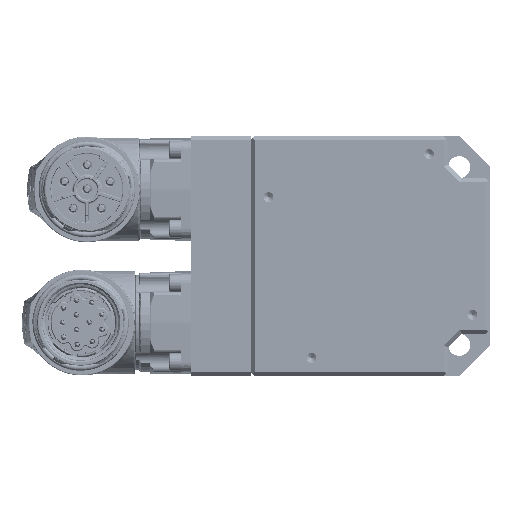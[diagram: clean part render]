
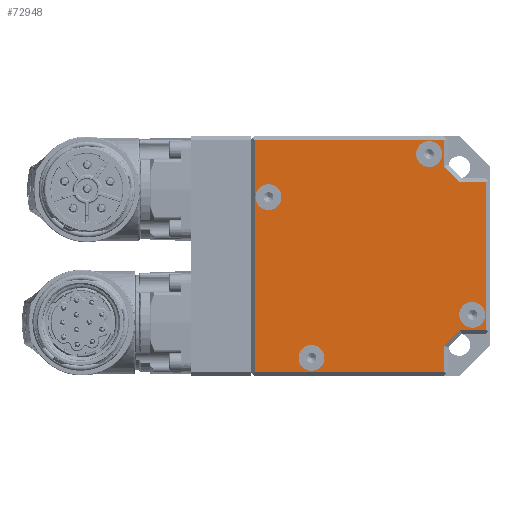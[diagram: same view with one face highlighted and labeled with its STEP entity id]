
A CAD part, left-side view. The second image highlights one B-rep face of the part: STEP entity #72948.
In plain terms, the highlighted planar face has unit normal (-1, 0, 0).
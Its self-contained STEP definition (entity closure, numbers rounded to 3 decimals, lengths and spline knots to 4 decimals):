
#7866=LINE('',#175245,#10721);
#7868=LINE('',#175249,#10723);
#7870=LINE('',#175253,#10725);
#7872=LINE('',#175257,#10727);
#7873=LINE('',#175260,#10728);
#7876=LINE('',#175265,#10731);
#7877=LINE('',#175269,#10732);
#7878=LINE('',#175271,#10733);
#7879=LINE('',#175272,#10734);
#7880=LINE('',#175273,#10735);
#10721=VECTOR('',#93515,0.3937);
#10723=VECTOR('',#93519,0.3937);
#10725=VECTOR('',#93523,0.3937);
#10727=VECTOR('',#93527,0.3937);
#10728=VECTOR('',#93530,0.3937);
#10731=VECTOR('',#93535,0.3937);
#10732=VECTOR('',#93538,0.3937);
#10733=VECTOR('',#93539,0.3937);
#10734=VECTOR('',#93540,0.3937);
#10735=VECTOR('',#93541,0.3937);
#13618=FACE_BOUND('',#20930,.T.);
#13619=FACE_BOUND('',#20931,.T.);
#13620=FACE_BOUND('',#20932,.T.);
#13621=FACE_BOUND('',#20933,.T.);
#16199=FACE_OUTER_BOUND('',#20929,.T.);
#20929=EDGE_LOOP('',(#55677,#55678,#55679,#55680,#55681,#55682,#55683,#55684,
#55685,#55686));
#20930=EDGE_LOOP('',(#55687));
#20931=EDGE_LOOP('',(#55688));
#20932=EDGE_LOOP('',(#55689));
#20933=EDGE_LOOP('',(#55690));
#25060=CIRCLE('',#79368,0.128);
#25061=CIRCLE('',#79369,0.128);
#25062=CIRCLE('',#79370,0.128);
#25063=CIRCLE('',#79371,0.128);
#30541=VERTEX_POINT('',#175241);
#30542=VERTEX_POINT('',#175243);
#30543=VERTEX_POINT('',#175247);
#30544=VERTEX_POINT('',#175251);
#30545=VERTEX_POINT('',#175255);
#30546=VERTEX_POINT('',#175259);
#30547=VERTEX_POINT('',#175263);
#30548=VERTEX_POINT('',#175267);
#30549=VERTEX_POINT('',#175268);
#30550=VERTEX_POINT('',#175270);
#30551=VERTEX_POINT('',#175274);
#30552=VERTEX_POINT('',#175276);
#30553=VERTEX_POINT('',#175278);
#30554=VERTEX_POINT('',#175280);
#39328=EDGE_CURVE('',#30542,#30541,#7866,.T.);
#39330=EDGE_CURVE('',#30541,#30543,#7868,.T.);
#39332=EDGE_CURVE('',#30544,#30542,#7870,.T.);
#39334=EDGE_CURVE('',#30545,#30544,#7872,.T.);
#39335=EDGE_CURVE('',#30546,#30545,#7873,.T.);
#39338=EDGE_CURVE('',#30547,#30546,#7876,.T.);
#39339=EDGE_CURVE('',#30548,#30549,#7877,.T.);
#39340=EDGE_CURVE('',#30550,#30548,#7878,.T.);
#39341=EDGE_CURVE('',#30543,#30550,#7879,.T.);
#39342=EDGE_CURVE('',#30549,#30547,#7880,.T.);
#39343=EDGE_CURVE('',#30551,#30551,#25060,.T.);
#39344=EDGE_CURVE('',#30552,#30552,#25061,.T.);
#39345=EDGE_CURVE('',#30553,#30553,#25062,.T.);
#39346=EDGE_CURVE('',#30554,#30554,#25063,.T.);
#55677=ORIENTED_EDGE('',*,*,#39339,.F.);
#55678=ORIENTED_EDGE('',*,*,#39340,.F.);
#55679=ORIENTED_EDGE('',*,*,#39341,.F.);
#55680=ORIENTED_EDGE('',*,*,#39330,.F.);
#55681=ORIENTED_EDGE('',*,*,#39328,.F.);
#55682=ORIENTED_EDGE('',*,*,#39332,.F.);
#55683=ORIENTED_EDGE('',*,*,#39334,.F.);
#55684=ORIENTED_EDGE('',*,*,#39335,.F.);
#55685=ORIENTED_EDGE('',*,*,#39338,.F.);
#55686=ORIENTED_EDGE('',*,*,#39342,.F.);
#55687=ORIENTED_EDGE('',*,*,#39343,.T.);
#55688=ORIENTED_EDGE('',*,*,#39344,.T.);
#55689=ORIENTED_EDGE('',*,*,#39345,.T.);
#55690=ORIENTED_EDGE('',*,*,#39346,.T.);
#65822=PLANE('',#79367);
#72948=ADVANCED_FACE('',(#16199,#13618,#13619,#13620,#13621),#65822,.T.);
#79367=AXIS2_PLACEMENT_3D('',#175266,#93536,#93537);
#79368=AXIS2_PLACEMENT_3D('',#175275,#93542,#93543);
#79369=AXIS2_PLACEMENT_3D('',#175277,#93544,#93545);
#79370=AXIS2_PLACEMENT_3D('',#175279,#93546,#93547);
#79371=AXIS2_PLACEMENT_3D('',#175281,#93548,#93549);
#93515=DIRECTION('',(0.,0.,1.));
#93519=DIRECTION('',(0.,-1.,0.));
#93523=DIRECTION('',(0.,1.,0.));
#93527=DIRECTION('',(0.,0.,-1.));
#93530=DIRECTION('',(0.,0.707,-0.707));
#93535=DIRECTION('',(0.,1.,0.));
#93536=DIRECTION('center_axis',(-1.,0.,0.));
#93537=DIRECTION('ref_axis',(0.,0.,1.));
#93538=DIRECTION('',(0.,-1.,0.));
#93539=DIRECTION('',(0.,-0.707,-0.707));
#93540=DIRECTION('',(0.,0.,-1.));
#93541=DIRECTION('',(0.,0.,-1.));
#93542=DIRECTION('center_axis',(1.,0.,0.));
#93543=DIRECTION('ref_axis',(0.,0.,
1.));
#93544=DIRECTION('center_axis',(1.,0.,0.));
#93545=DIRECTION('ref_axis',(0.,0.,
1.));
#93546=DIRECTION('center_axis',(1.,0.,0.));
#93547=DIRECTION('ref_axis',(0.,0.,
1.));
#93548=DIRECTION('center_axis',(1.,0.,0.));
#93549=DIRECTION('ref_axis',(0.,0.,
1.));
#175241=CARTESIAN_POINT('',(0.2943,5.999,1.1417));
#175243=CARTESIAN_POINT('',(0.2943,5.999,-1.1417));
#175245=CARTESIAN_POINT('',(0.2943,5.999,-0.5709));
#175247=CARTESIAN_POINT('',(0.2943,4.129,1.1417));
#175249=CARTESIAN_POINT('',(0.2943,5.455,1.1417));
#175251=CARTESIAN_POINT('',(0.2943,4.129,-1.1417));
#175253=CARTESIAN_POINT('',(0.2943,4.52,-1.1417));
#175255=CARTESIAN_POINT('',(0.2943,4.129,-0.8863));
#175257=CARTESIAN_POINT('',(0.2943,4.129,-0.4513));
#175259=CARTESIAN_POINT('',(0.2943,3.971,-0.7283));
#175260=CARTESIAN_POINT('',(0.2943,4.0297,-0.787));
#175263=CARTESIAN_POINT('',(0.2943,3.7156,-0.7283));
#175265=CARTESIAN_POINT('',(0.2943,4.3133,-0.7283));
#175266=CARTESIAN_POINT('Origin',(0.2943,4.911,0.));
#175267=CARTESIAN_POINT('',(0.2943,3.971,0.7283));
#175268=CARTESIAN_POINT('',(0.2943,3.7156,0.7283));
#175269=CARTESIAN_POINT('',(0.2943,4.4329,0.7283));
#175270=CARTESIAN_POINT('',(0.2943,4.129,0.8863));
#175271=CARTESIAN_POINT('',(0.2943,4.0971,0.8545));
#175272=CARTESIAN_POINT('',(0.2943,4.129,0.5709));
#175273=CARTESIAN_POINT('',(0.2943,3.7156,0.3642));
#175274=CARTESIAN_POINT('',(0.2943,4.2766,1.1338));
#175275=CARTESIAN_POINT('Origin',(0.2943,4.2766,1.0058));
#175276=CARTESIAN_POINT('',(0.2943,5.438,-0.8779));
#175277=CARTESIAN_POINT('Origin',(0.2943,5.438,-1.0058));
#175278=CARTESIAN_POINT('',(0.2943,5.8631,0.7087));
#175279=CARTESIAN_POINT('Origin',(0.2943,5.8631,0.5807));
#175280=CARTESIAN_POINT('',(0.2943,3.8515,-0.4528));
#175281=CARTESIAN_POINT('Origin',(0.2943,3.8515,-0.5807));
